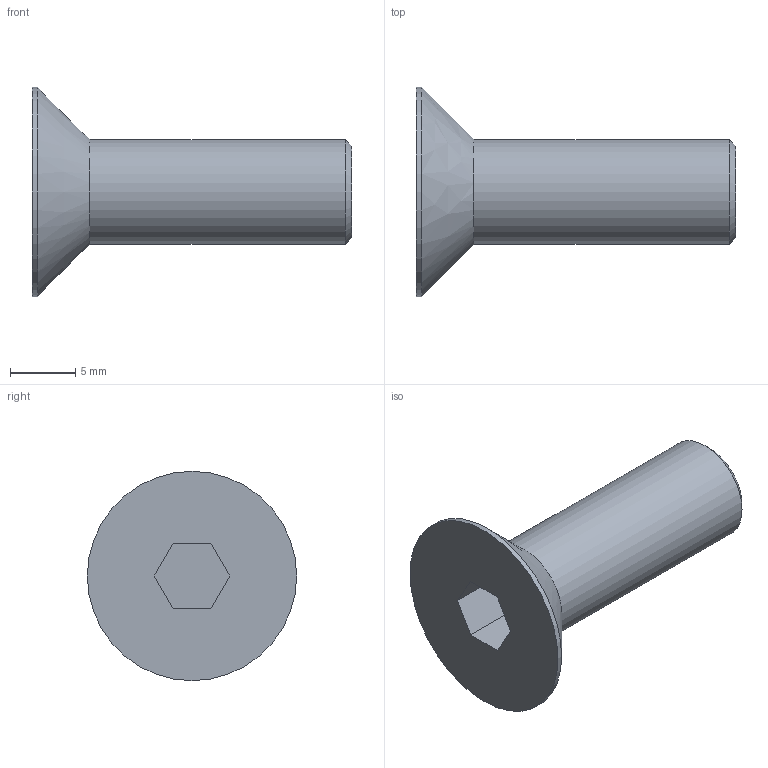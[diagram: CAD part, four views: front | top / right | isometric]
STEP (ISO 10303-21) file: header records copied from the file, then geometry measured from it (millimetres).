
FILE_DESCRIPTION( ( 'STEP AP203' ), '1' );
FILE_NAME( 'C:/FCS-08.stp', '2013-10-15T01:24:08', ( ' ' ), ( ' ' ), 'XStep 1.0', ' ', ' ' );
FILE_SCHEMA( ( 'CONFIG_CONTROL_DESIGN' ) );
Length unit declared in the file: metre
Products named in the file (1): 1
Bounding box: 24.4 x 16 x 16 mm (x, y, z)
Volume: 1433.8 mm3; surface area: 1085.6 mm2
Topology: 1 solids, 1 shells, 13 faces, 27 edges, 17 vertices
Faces by surface type: bspline 13
Entity records: 422 total; most frequent: CARTESIAN_POINT 161, ORIENTED_EDGE 46, DIRECTION 26, EDGE_CURVE 23, EDGE_LOOP 18, FACE_OUTER_BOUND 17, VERTEX_POINT 17, LINE 14
